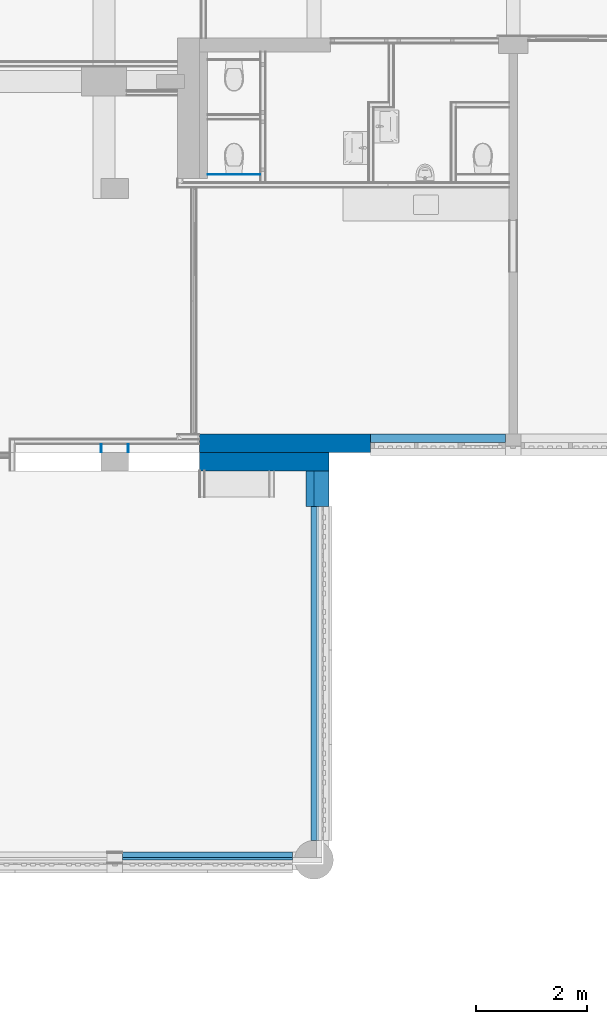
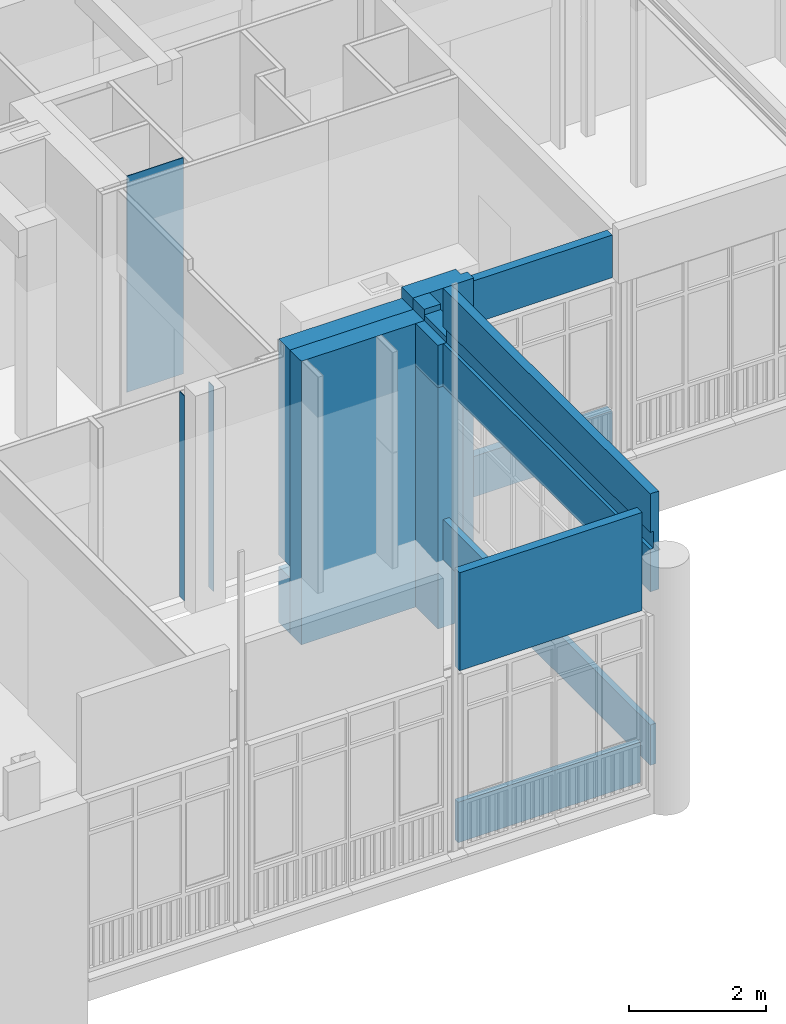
# One storey, part 84 of 135: 13 walls.
"""IFC2X3 building model written with IfcOpenShell, lengths in millimetres."""

from ifc_helpers import new_model, entity, si_unit, converted_unit, derived_unit, money_unit, direction, frame, origin_with_axes, place, context, subcontext, project, spatial, faceted_brep, material, type_object, element, save


model = new_model("IFC2X3")

# Units and contexts
model_context = context("Model", 3, precision=0.01, world=origin_with_axes(), true_north=direction((0.0, 1.0)))
body_context = subcontext(model_context, "Body", "Model", "MODEL_VIEW")
ifc_project = project(units=[si_unit("LENGTHUNIT", "METRE", prefix="MILLI"), si_unit("AREAUNIT", "SQUARE_METRE"), si_unit("VOLUMEUNIT", "CUBIC_METRE"), converted_unit("PLANEANGLEUNIT", "DEGREE", entity("IfcPlaneAngleMeasure", 0.0174532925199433), si_unit("PLANEANGLEUNIT", "RADIAN"), dimensions=[0, 0, 0, 0, 0, 0, 0]), money_unit("EUR"), converted_unit("TIMEUNIT", "Year", entity("IfcTimeMeasure", 31557600.0), si_unit("TIMEUNIT", "SECOND"), dimensions=[0, 0, 1, 0, 0, 0, 0]), si_unit("MASSUNIT", "GRAM", prefix="KILO"), si_unit("THERMODYNAMICTEMPERATUREUNIT", "DEGREE_CELSIUS"), si_unit("LUMINOUSINTENSITYUNIT", "LUMEN"), si_unit("ENERGYUNIT", "JOULE", prefix="MEGA"), derived_unit("THERMALCONDUCTANCEUNIT", [(si_unit("POWERUNIT", "WATT"), 1), (si_unit("LENGTHUNIT", "METRE"), -1), (si_unit("THERMODYNAMICTEMPERATUREUNIT", "KELVIN"), -1)]), derived_unit("SPECIFICHEATCAPACITYUNIT", [(si_unit("ENERGYUNIT", "JOULE"), 1), (si_unit("MASSUNIT", "GRAM", prefix="KILO"), -1), (si_unit("THERMODYNAMICTEMPERATUREUNIT", "KELVIN"), -1)]), derived_unit("MASSDENSITYUNIT", [(si_unit("MASSUNIT", "GRAM", prefix="KILO"), 1), (si_unit("VOLUMEUNIT", "CUBIC_METRE"), -1)])], contexts=[model_context])

# Site, building, storey
site_placement = place(None, origin_with_axes())
site = spatial("IfcSite", under=ifc_project, at=site_placement, Name="Site", CompositionType="ELEMENT")
building_placement = place(site_placement, origin_with_axes())
building = spatial("IfcBuilding", under=site, at=building_placement, Name="Naam gebouw", CompositionType="ELEMENT")
storey_placement = place(building_placement, origin_with_axes())
storey = spatial("IfcBuildingStorey", under=building, at=storey_placement, Name="Begane grond N", CompositionType="ELEMENT", Elevation=0.0)

# Walls
ifc_material_1 = material(Name="ALG - CONSTRUCTIEF")
wall_type_1 = type_object("IfcWallType", Name="ALG - CONSTRUCTIEF 330", PredefinedType="NOTDEFINED")
wall_1_placement = place(storey_placement, frame((32675.4702600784, 10660.91242510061, -1200.0), z_axis=(0.0, 0.0, 1.0), x_axis=(-1.0, 0.0, 0.0)))
element("IfcWall", 1, at=wall_1_placement, inside=storey, type_object=wall_type_1, material=ifc_material_1, Name="_Wand-x", context=body_context, shape_type="Brep", body=[
    faceted_brep([(2346.283160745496, 0.0, 1200.0), (2346.283160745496, 0.0, 5050.000000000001), (275.4702600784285, 0.0, 5050.000000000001), (275.4702600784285, 0.0, 5250.000000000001), (0.0, 0.0, 5250.000000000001), (0.0, 0.0, 0.0), (2346.283160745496, 0.0, 0.0), (2346.283160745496, 0.0, 1000.0), (275.4702600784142, 0.0, 1000.0), (275.4702600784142, 0.0, 1200.0), (2346.283160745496, 329.9999999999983, 0.0), (2346.283160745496, 329.9999999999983, 5050.000000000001), (2346.283160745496, 3.020951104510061, 1200.0), (2346.283160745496, 3.020951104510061, 1000.0), (275.4702600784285, 329.9999999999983, 5050.000000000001), (275.4702600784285, 329.9999999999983, 5250.000000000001), (0.0, 329.9999999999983, 5250.000000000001), (0.0, 329.9999999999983, 0.0), (275.4702600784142, 3.739251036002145, 1000.0), (275.4702600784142, 3.739251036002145, 1200.0)], [[[0, 1, 2, 3, 4, 5, 6, 7, 8, 9]], [[10, 11, 1, 0, 12, 13, 7, 6]], [[14, 2, 1, 11]], [[14, 15, 3, 2]], [[4, 3, 15, 16]], [[4, 16, 17, 5]], [[5, 17, 10, 6]], [[18, 8, 7, 13]], [[19, 9, 8, 18]], [[12, 0, 9, 19]], [[15, 14, 11, 10, 17, 16]], [[18, 13, 12, 19]]]),
])
wall_2_placement = place(storey_placement, frame((33422.5, 10990.91242510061, -1200.0), z_axis=(0.0, 0.0, 1.0), x_axis=(-1.0, 0.0, 0.0)))
element("IfcWall", 2, at=wall_2_placement, inside=storey, type_object=wall_type_1, material=ifc_material_1, Name="_Wand-x", context=body_context, shape_type="Brep", body=[
    faceted_brep([(3093.31290066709, 0.0, 1200.0), (3093.31290066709, 0.0, 5050.000000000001), (1022.500000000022, 0.0, 5050.000000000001), (1022.500000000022, 0.0, 5250.000000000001), (112.1523492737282, 0.0, 5250.000000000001), (112.1523492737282, 0.0, 5050.000000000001), (0.0, 0.0, 5050.000000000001), (0.0, 0.0, 0.0), (3093.31290066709, 0.0, 0.0), (3093.31290066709, 0.0, 1000.0), (1022.500000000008, 0.0, 1000.0), (1022.500000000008, 0.0, 1200.0), (3093.31290066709, 330.0000000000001, 1200.0), (3093.31290066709, 330.0000000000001, 5050.000000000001), (1022.500000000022, 330.0000000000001, 5050.000000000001), (1022.500000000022, 330.0000000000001, 5250.000000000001), (0.0, 330.0000000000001, 5250.000000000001), (0.0, 146.0000000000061, 5250.000000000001), (112.1523492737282, 146.0000000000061, 5250.000000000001), (112.1523492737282, 146.0000000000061, 5050.000000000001), (0.0, 146.0000000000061, 5050.000000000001), (0.0, 330.0000000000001, 0.0), (3093.31290066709, 330.0000000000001, 0.0), (3093.31290066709, 330.0000000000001, 999.9999999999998), (1022.500000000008, 330.0000000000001, 1000.0), (1022.500000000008, 330.0000000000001, 1200.0)], [[[0, 1, 2, 3, 4, 5, 6, 7, 8, 9, 10, 11]], [[12, 13, 1, 0]], [[14, 2, 1, 13]], [[14, 15, 3, 2]], [[4, 3, 15, 16, 17, 18]], [[19, 5, 4, 18]], [[19, 20, 6, 5]], [[6, 20, 17, 16, 21, 7]], [[8, 7, 21, 22]], [[22, 23, 9, 8]], [[24, 10, 9, 23]], [[25, 11, 10, 24]], [[12, 0, 11, 25]], [[15, 14, 13, 12, 25, 24, 23, 22, 21, 16]], [[19, 18, 17, 20]]]),
])
ifc_material_2 = material(Name="Steen - Betonblok")
wall_type_2 = type_object("IfcWallType", Name="Steen - Betonblok 100", PredefinedType="NOTDEFINED")
wall_3_placement = place(storey_placement, frame((28937.53780894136, 3445.668707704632, 0.0), z_axis=(0.0, 0.0, 1.0), x_axis=(1.0, 0.0, 0.0)))
element("IfcWall", 3, at=wall_3_placement, inside=storey, type_object=wall_type_2, material=ifc_material_2, Name="_Wand-x", context=body_context, shape_type="Brep", body=[
    faceted_brep([(0.0, -100.0000000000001, 720.0000000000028), (3069.993059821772, -100.000000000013, 720.0000000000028), (3069.993059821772, 0.0, 720.0000000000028), (0.0, 0.0, 720.0000000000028), (0.0, -100.0000000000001, 0.0), (3069.993059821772, -100.000000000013, 0.0), (3069.993059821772, 0.0, 0.0), (0.0, 0.0, 0.0)], [[[0, 1, 2, 3]], [[4, 5, 1, 0]], [[2, 1, 5, 6]], [[3, 2, 6, 7]], [[4, 0, 3, 7]], [[7, 6, 5, 4]]]),
])
wall_4_placement = place(storey_placement, frame((32345.47026007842, 3645.949689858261, 0.0), z_axis=(0.0, 0.0, 1.0), x_axis=(0.0, 1.0, 0.0)))
element("IfcWall", 4, at=wall_4_placement, inside=storey, type_object=wall_type_2, material=ifc_material_2, Name="_Wand-x", context=body_context, shape_type="Brep", body=[
    faceted_brep([(0.0, -1.449080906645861, 720.0000000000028), (0.7114462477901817, -4.719546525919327, 720.0000000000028), (4.273941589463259, -54.52973992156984, 720.0000000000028), (1.021844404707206, -100.0000000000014, 720.0000000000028), (6039.999999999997, -100.0000000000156, 720.0000000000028), (6039.999999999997, 0.0, 720.0000000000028), (0.0, 0.0, 720.0000000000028), (0.7114462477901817, -4.719546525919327, 0.0), (0.0, -1.449080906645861, 0.0), (4.273941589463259, -54.52973992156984, 0.0), (1.021844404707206, -100.0000000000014, 0.0), (6039.999999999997, -100.0000000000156, 0.0), (6039.999999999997, 0.0, 0.0), (0.0, 0.0, 0.0)], [[[0, 1, 2, 3, 4, 5, 6]], [[7, 1, 0, 8]], [[9, 2, 1, 7]], [[9, 10, 3, 2]], [[4, 3, 10, 11]], [[12, 5, 4, 11]], [[13, 6, 5, 12]], [[13, 8, 0, 6]], [[9, 7, 8, 13, 12, 11, 10]]]),
])
wall_type_3 = type_object("IfcWallType", Name="ALG - CONSTRUCTIEF 146", PredefinedType="NOTDEFINED")
wall_5_placement = place(storey_placement, frame((35862.68197425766, 10990.91242510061, 0.0), z_axis=(0.0, 0.0, 1.0), x_axis=(-1.0, 0.0, 0.0)))
element("IfcWall", 5, at=wall_5_placement, inside=storey, type_object=wall_type_3, material=ifc_material_1, Name="_Wand-x", context=body_context, shape_type="Brep", body=[
    faceted_brep([(0.0, 146.0000000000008, 0.0), (2440.181974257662, 145.999999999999, 0.0), (2440.181974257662, 0.0, 0.0), (0.0, 0.0, 0.0), (0.0, 146.0000000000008, 720.0000000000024), (2440.181974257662, 145.999999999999, 720.0000000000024), (2440.181974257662, 0.0, 720.0000000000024), (0.0, 0.0, 720.0000000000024)], [[[0, 1, 2, 3]], [[4, 5, 1, 0]], [[2, 1, 5, 6]], [[3, 2, 6, 7]], [[4, 0, 3, 7]], [[7, 6, 5, 4]]]),
])
wall_6_placement = place(storey_placement, frame((32345.46279206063, 3645.986916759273, 3090.0), z_axis=(0.0, 0.0, 1.0), x_axis=(1.236434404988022e-06, 0.9999999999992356, 0.0)))
element("IfcWall", 6, at=wall_6_placement, inside=storey, type_object=wall_type_3, material=ifc_material_1, Name="_Wand-x", context=body_context, shape_type="Brep", body=[
    faceted_brep([(0.0, -107.4473483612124, 1746.500000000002), (0.6743483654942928, -104.3474005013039, 1746.500000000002), (0.6743483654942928, -104.3474005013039, 0.0), (0.0, -107.4473483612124, 0.0), (0.6742251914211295, -4.727013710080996, 1746.500000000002), (4.23678212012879, -54.53720270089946, 1746.500000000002), (0.0, -146.0000000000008, 1746.500000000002), (6039.962773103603, -146.0000000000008, 1746.500000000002), (6039.962773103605, 0.0, 1746.500000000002), (0.0, 0.0, 1746.500000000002), (0.0, -1.627668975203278, 1746.500000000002), (4.23678212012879, -54.53720270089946, 1060.000000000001), (4.23678212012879, -54.53720270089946, 760.0000000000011), (4.23678212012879, -54.53720270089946, 0.0), (0.6742251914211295, -4.727013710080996, 0.0), (0.0, -1.627668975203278, 0.0), (0.0, 0.0, 0.0), (6039.962773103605, 0.0, 0.0), (6039.962773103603, -146.0000000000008, 0.0), (0.0, -146.0000000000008, 0.0), (0.6742251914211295, -4.727013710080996, 1060.000000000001), (6039.962773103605, 0.0, 760.0000000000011), (6039.962773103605, -54.52973992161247, 760.0000000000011), (6039.962773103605, -54.52973992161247, 1060.000000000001), (6039.962773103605, 0.0, 1060.000000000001), (0.0, 0.0, 1060.000000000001), (0.0, -1.627668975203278, 1060.000000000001), (0.6742251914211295, -4.727013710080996, 760.0000000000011), (0.0, -1.627668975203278, 760.0000000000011), (0.0, 0.0, 760.0000000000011)], [[[0, 1, 2, 3]], [[4, 5, 1, 0, 6, 7, 8, 9, 10]], [[5, 11, 12, 13, 2, 1]], [[13, 14, 15, 16, 17, 18, 19, 3, 2]], [[0, 3, 19, 6]], [[11, 5, 4, 20]], [[7, 6, 19, 18]], [[18, 17, 21, 22, 23, 24, 8, 7]], [[9, 8, 24, 25]], [[25, 26, 10, 9]], [[20, 4, 10, 26]], [[22, 12, 11, 23]], [[13, 12, 27, 14]], [[14, 27, 28, 15]], [[16, 15, 28, 29]], [[17, 16, 29, 21]], [[11, 20, 26, 25, 24, 23]], [[28, 27, 12, 22, 21, 29]]]),
])
wall_7_placement = place(storey_placement, frame((35862.68197425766, 10990.91242510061, 3090.0), z_axis=(0.0, 0.0, 1.0), x_axis=(-1.0, 0.0, 0.0)))
element("IfcWall", 7, at=wall_7_placement, inside=storey, type_object=wall_type_3, material=ifc_material_1, Name="_Wand-x", context=body_context, shape_type="Brep", body=[
    faceted_brep([(0.0, 146.0000000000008, 0.0), (2440.181974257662, 145.999999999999, 0.0), (2440.181974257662, 0.0, 0.0), (0.0, 0.0, 0.0), (0.0, 146.0000000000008, 760.0000000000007), (2440.181974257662, 145.999999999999, 760.0000000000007), (2440.181974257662, 0.0, 760.0000000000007), (0.0, 0.0, 760.0000000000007)], [[[0, 1, 2, 3]], [[4, 5, 1, 0]], [[2, 1, 5, 6]], [[3, 2, 6, 7]], [[4, 0, 3, 7]], [[7, 6, 5, 4]]]),
])
wall_8_placement = place(storey_placement, frame((28937.53780894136, 3445.668707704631, 3090.0), z_axis=(0.0, 0.0, 1.0), x_axis=(1.0, 0.0, 0.0)))
element("IfcWall", 8, at=wall_8_placement, inside=storey, type_object=wall_type_3, material=ifc_material_1, Name="_Wand-x", context=body_context, shape_type="Brep", body=[
    faceted_brep([(0.0, 0.0, 0.0), (3069.993059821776, 0.0, 0.0), (3069.993059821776, -146.0000000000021, 0.0), (0.0, -145.9999999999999, 0.0), (0.0, 0.0, 1746.500000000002), (3069.993059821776, 0.0, 1746.500000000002), (3069.993059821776, -146.0000000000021, 1746.500000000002), (0.0, -145.9999999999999, 1746.500000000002)], [[[0, 1, 2, 3]], [[4, 5, 1, 0]], [[2, 1, 5, 6]], [[3, 2, 6, 7]], [[4, 0, 3, 7]], [[7, 6, 5, 4]]]),
])
ifc_material_3 = material(Name="Gipsplaat")
wall_type_4 = type_object("IfcWallType", Name="Metalstud 100 enkel 100", PredefinedType="NOTDEFINED")
wall_9_placement = place(storey_placement, frame((29050.0, 10660.91241736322, 0.0), z_axis=(0.0, 0.0, 1.0), x_axis=(0.0, 1.0, 0.0)))
element("IfcWall", 9, at=wall_9_placement, inside=storey, type_object=wall_type_4, material=ifc_material_3, Name="_Wand-x", context=body_context, shape_type="Brep", body=[
    faceted_brep([(145.0000077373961, 0.0, 0.0), (145.0000077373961, 12.49999999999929, 0.0), (145.0000077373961, 12.49999999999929, 3650.0), (145.0000077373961, 0.0, 3650.0), (0.0, 0.0, 0.0), (0.0, 12.49999999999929, 0.0), (7.737392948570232e-06, 12.49999999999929, 3650.0), (7.737392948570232e-06, 0.0, 3650.0)], [[[0, 1, 2, 3]], [[4, 5, 1, 0]], [[1, 5, 6, 2]], [[2, 6, 7, 3]], [[4, 0, 3, 7]], [[5, 4, 7, 6]]]),
])
wall_10_placement = place(storey_placement, frame((28550.0, 10660.91241736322, 0.0), z_axis=(0.0, 0.0, 1.0), x_axis=(0.0, 1.0, 0.0)))
element("IfcWall", 10, at=wall_10_placement, inside=storey, type_object=wall_type_4, material=ifc_material_3, Name="_Wand-x", context=body_context, shape_type="Brep", body=[
    faceted_brep([(145.0000077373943, -12.49999999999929, 0.0), (145.0000077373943, 0.0, 0.0), (145.0000077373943, 0.0, 3650.0), (145.0000077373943, -12.49999999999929, 3650.0), (0.0, -12.49999999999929, 0.0), (0.0, 0.0, 0.0), (7.737391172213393e-06, 0.0, 3650.0), (7.737391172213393e-06, -12.49999999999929, 3650.0)], [[[0, 1, 2, 3]], [[4, 5, 1, 0]], [[1, 5, 6, 2]], [[2, 6, 7, 3]], [[4, 0, 3, 7]], [[5, 4, 7, 6]]]),
])
wall_type_5 = type_object("IfcWallType", Name="Metalstud 150 enkel 150", PredefinedType="NOTDEFINED")
wall_11_placement = place(storey_placement, frame((31429.1870993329, 15690.91242510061, 0.0), z_axis=(0.0, 0.0, 1.0), x_axis=(-1.0, 0.0, 0.0)))
element("IfcWall", 11, at=wall_11_placement, inside=storey, type_object=wall_type_5, material=ifc_material_3, Name="_Wand-x", context=body_context, shape_type="Brep", body=[
    faceted_brep([(949.9999999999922, 0.0, 0.0), (949.9999999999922, 0.0, 3850.000000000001), (0.0, 0.0, 3850.000000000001), (0.0, 0.0, 0.0), (949.9999999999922, 12.49999999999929, 0.0), (949.9999999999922, 12.49999999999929, 3850.000000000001), (0.0, 12.50000000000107, 3850.000000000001), (0.0, 12.49999999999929, 0.0)], [[[0, 1, 2, 3]], [[4, 5, 1, 0]], [[5, 6, 2, 1]], [[3, 2, 6, 7]], [[7, 4, 0, 3]], [[7, 6, 5, 4]]]),
])
wall_type_6 = type_object("IfcWallType", Name="ALG - CONSTRUCTIEF 420", PredefinedType="NOTDEFINED")
wall_12_placement = place(storey_placement, frame((32675.47026007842, 9685.94968985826, 3092.68395564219), z_axis=(0.0, 0.0, 1.0), x_axis=(0.0, 1.0, 0.0)))
element("IfcWall", 12, at=wall_12_placement, inside=storey, type_object=wall_type_6, material=ifc_material_1, Name="_Wand-x", context=body_context, shape_type="Brep", body=[
    faceted_brep([(644.9627352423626, 419.9999999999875, 0.0), (644.9627352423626, 419.9999999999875, 757.316044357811), (644.962735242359, 275.4702600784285, 757.316044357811), (644.962735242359, 275.4702600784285, 857.3160443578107), (644.9627352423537, 0.0, 857.3160443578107), (644.9627352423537, 0.0, 0.0), (0.0, 420.0000000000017, 0.0), (0.0, 420.0000000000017, 757.316044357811), (0.0, 275.4702600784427, 757.316044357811), (0.0, 275.4702600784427, 857.3160443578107), (0.0, 0.0, 857.3160443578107), (0.0, 0.0, 0.0)], [[[0, 1, 2, 3, 4, 5]], [[6, 7, 1, 0]], [[8, 2, 1, 7]], [[8, 9, 3, 2]], [[4, 3, 9, 10]], [[10, 11, 5, 4]], [[11, 6, 0, 5]], [[9, 8, 7, 6, 11, 10]]]),
])
wall_13_placement = place(storey_placement, frame((32675.47026007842, 9685.94968985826, -1200.0), z_axis=(0.0, 0.0, 1.0), x_axis=(0.0, 1.0, 0.0)))
element("IfcWall", 13, at=wall_13_placement, inside=storey, type_object=wall_type_6, material=ifc_material_1, Name="_Wand-x", context=body_context, shape_type="Brep", body=[
    faceted_brep([(0.0, 420.0000000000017, 0.0), (644.9627352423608, 419.9999999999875, 0.0), (644.962735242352, 0.0, 0.0), (0.0, 0.0, 0.0), (0.0, 420.0000000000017, 4292.683955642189), (644.9627352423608, 419.9999999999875, 4292.683955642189), (644.962735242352, 0.0, 4292.683955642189), (0.0, 0.0, 4292.683955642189)], [[[0, 1, 2, 3]], [[4, 5, 1, 0]], [[2, 1, 5, 6]], [[3, 2, 6, 7]], [[4, 0, 3, 7]], [[7, 6, 5, 4]]]),
])

save(model, "model.ifc")
